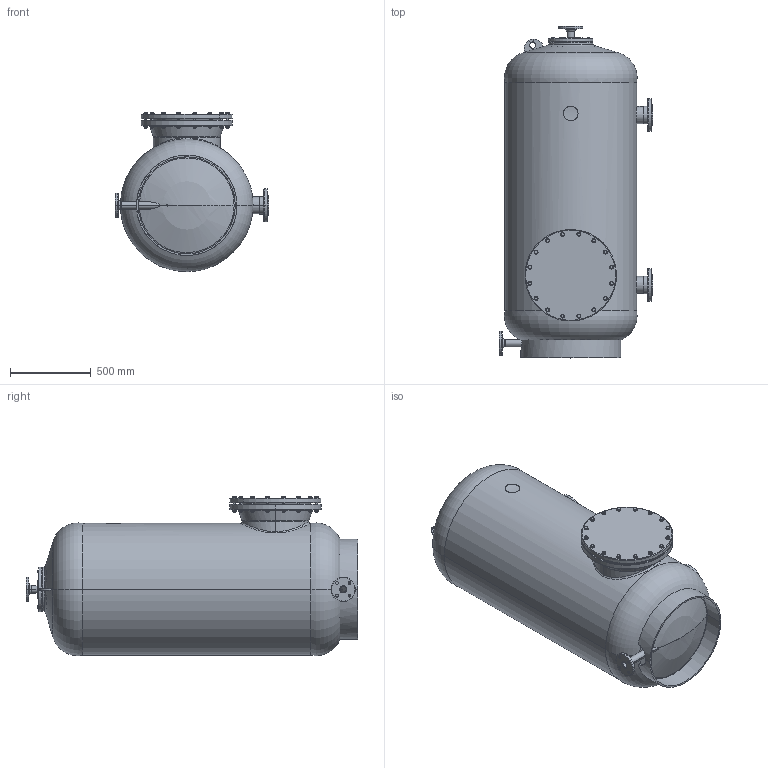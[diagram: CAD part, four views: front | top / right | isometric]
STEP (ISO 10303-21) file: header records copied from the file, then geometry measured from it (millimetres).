
FILE_DESCRIPTION (( 'STEP AP214' ), '1' );
FILE_NAME ('adriatic80c.STEP', '2020-11-04T09:52:44', ( '' ), ( '' ), 'SwSTEP 2.0', 'SolidWorks 2019', '' );
FILE_SCHEMA (( 'AUTOMOTIVE_DESIGN' ));
Length unit declared in the file: millimetre
Products named in the file (1): adriatic80c
Bounding box: 948.94 x 2050.85 x 984.67 mm (x, y, z)
Surface area: 12939752.6 mm2 (no closed solid volume)
Topology: 0 solids, 106 shells, 1637 faces, 3633 edges, 2222 vertices
Faces by surface type: cone 542, cylinder 515, plane 481, torus 76, sphere 19, bspline 4
Entity records: 88546 total; most frequent: CARTESIAN_POINT 34326, DIRECTION 7237, ORIENTED_EDGE 7156, EDGE_CURVE 3594, AXIS2_PLACEMENT_3D 3123, VERTEX_POINT 2207, EDGE_LOOP 1959, UNCERTAINTY_MEASURE_WITH_UNIT 1730
